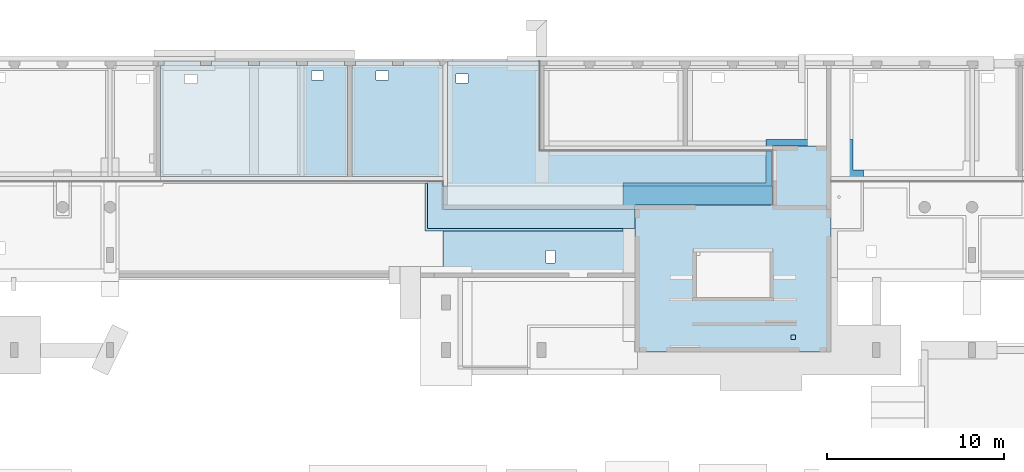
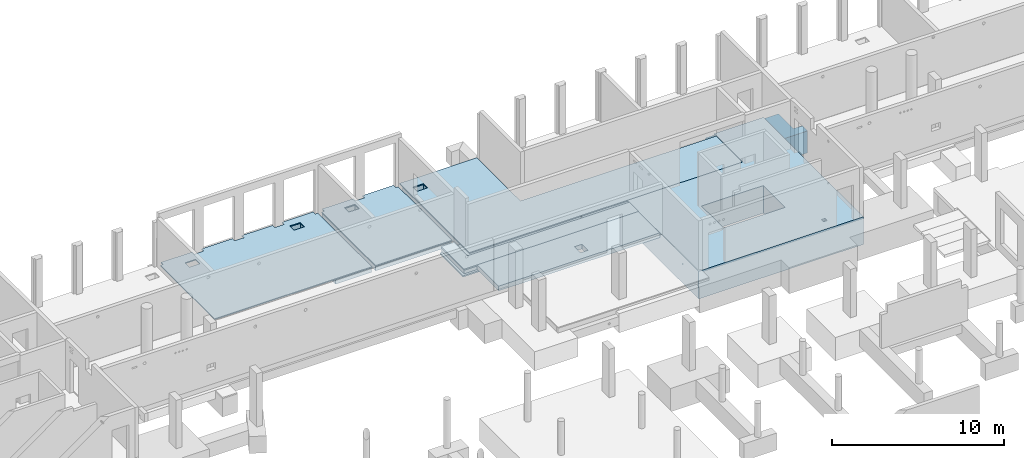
# One storey, part 31 of 60: 12 slabs, 46 openings.
"""IFC2X3 building model written with IfcOpenShell, lengths in millimetres."""

from ifc_helpers import new_model, entity, si_unit, converted_unit, derived_unit, direction, frame, frame_2d, origin, origin_2d_with_axis, place, context, subcontext, project, spatial, polyline, rectangle, circle, outline, extrude, material, layer, layer_set, layer_usage, element, save


model = new_model("IFC2X3")

# Units and contexts
model_context = context("Model", 3, precision=0.01, world=origin(), true_north=direction((6.12303176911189e-17, 1.0)))
body_context = subcontext(model_context, "Body", "Model", "MODEL_VIEW")
ifc_project = project(units=[si_unit("LENGTHUNIT", "METRE", prefix="MILLI"), si_unit("AREAUNIT", "SQUARE_METRE"), si_unit("VOLUMEUNIT", "CUBIC_METRE"), converted_unit("PLANEANGLEUNIT", "DEGREE", entity("IfcRatioMeasure", 0.0174532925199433), si_unit("PLANEANGLEUNIT", "RADIAN"), dimensions=[0, 0, 0, 0, 0, 0, 0]), si_unit("MASSUNIT", "GRAM", prefix="KILO"), derived_unit("MASSDENSITYUNIT", [(si_unit("MASSUNIT", "GRAM", prefix="KILO"), 1), (si_unit("LENGTHUNIT", "METRE"), -3)]), si_unit("TIMEUNIT", "SECOND"), si_unit("FREQUENCYUNIT", "HERTZ"), si_unit("THERMODYNAMICTEMPERATUREUNIT", "DEGREE_CELSIUS"), derived_unit("THERMALTRANSMITTANCEUNIT", [(si_unit("MASSUNIT", "GRAM", prefix="KILO"), 1), (si_unit("THERMODYNAMICTEMPERATUREUNIT", "KELVIN"), -1), (si_unit("TIMEUNIT", "SECOND"), -3)]), derived_unit("VOLUMETRICFLOWRATEUNIT", [(si_unit("LENGTHUNIT", "METRE"), 3), (si_unit("TIMEUNIT", "SECOND"), -1)]), si_unit("ELECTRICCURRENTUNIT", "AMPERE"), si_unit("ELECTRICVOLTAGEUNIT", "VOLT"), si_unit("POWERUNIT", "WATT"), si_unit("FORCEUNIT", "NEWTON", prefix="KILO"), si_unit("ILLUMINANCEUNIT", "LUX"), si_unit("LUMINOUSFLUXUNIT", "LUMEN"), si_unit("LUMINOUSINTENSITYUNIT", "CANDELA"), derived_unit("USERDEFINED", [(si_unit("MASSUNIT", "GRAM", prefix="KILO"), -1), (si_unit("LENGTHUNIT", "METRE"), -2), (si_unit("TIMEUNIT", "SECOND"), 3), (si_unit("LUMINOUSFLUXUNIT", "LUMEN"), 1)]), derived_unit("LINEARVELOCITYUNIT", [(si_unit("LENGTHUNIT", "METRE"), 1), (si_unit("TIMEUNIT", "SECOND"), -1)]), si_unit("PRESSUREUNIT", "PASCAL"), derived_unit("USERDEFINED", [(si_unit("LENGTHUNIT", "METRE"), -2), (si_unit("MASSUNIT", "GRAM", prefix="KILO"), 1), (si_unit("TIMEUNIT", "SECOND"), -2)])], contexts=[model_context])

# Site, building, storey
site_placement = place(None, origin())
site = spatial("IfcSite", under=ifc_project, at=site_placement, Name="Default", CompositionType="ELEMENT")
building_placement = place(site_placement, origin())
building = spatial("IfcBuilding", under=site, at=building_placement, Name="niet gebruiken", CompositionType="ELEMENT")
storey_placement = place(building_placement, origin())
storey = spatial("IfcBuildingStorey", under=building, at=storey_placement, Name="00 begane grond", CompositionType="ELEMENT", Elevation=0.0)

# Slab, openings
ifc_material_1 = material(Name="NLRS_f2_beton ihwg")
ifc_layer_1 = layer(ifc_material_1, 70.0)
ifc_layer_set_1 = layer_set([ifc_layer_1], Name="Floor:NLRS_23.21_FL_druklaag d=70_gen")
ifc_layer_usage_1 = layer_usage(ifc_layer_set_1, "AXIS3", "POSITIVE", 0.0)
slab_1_placement = place(storey_placement, frame((8180.0, 45156.0, -160.0)))
slab_1 = element("IfcSlab", 1, at=slab_1_placement, inside=storey, material=ifc_layer_usage_1, Name="Floor:NLRS_23.21_FL_druklaag d=70_gen:4", ObjectType="Floor:NLRS_23.21_FL_druklaag d=70_gen", PredefinedType="FLOOR", context=body_context, shape_type="SweptSolid", body=[
    extrude(outline(polyline([(-12022.5000000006, 3800.0), (-12022.5000000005, -2460.0), (-6897.49999999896, -2460.0), (-6897.49999999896, 3800.0), (-7082.50096011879, 3800.0), (-7082.50096011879, 4050.0), (-9162.50096011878, 4050.0), (-9162.50096011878, 3800.0), (-9782.50096011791, 3800.0), (-9782.50096011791, 4050.0), (-11862.5009601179, 4050.0), (-11862.5009601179, 3800.0), (-12022.5000000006, 3800.0)])), frame((55247.4999999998, 4050.0, 70.0), z_axis=(0.0, 0.0, -1.0), x_axis=(-1.0, 0.0, 0.0)), (0.0, 0.0, 1.0), 70.0),
])
placement_1 = place(storey_placement, frame((8180.0, 45156.0, -160.0)))
placement_2 = place(placement_1, origin())
element("IfcOpeningElement", 2, at=placement_2, cuts=slab_1, ObjectType="Opening", context=body_context, shape_type="SweptSolid", body=[
    extrude(rectangle(XDim=700.000000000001, YDim=499.999999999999, at=origin_2d_with_axis()), frame((1750.0, 7302.50000000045, -380.0), z_axis=(0.0, 0.0, 1.0), x_axis=(-1.0, 0.0, 0.0)), (0.0, 0.0, 1.0), 450.0),
])
placement_3 = place(placement_1, origin())
element("IfcOpeningElement", 3, at=placement_3, cuts=slab_1, ObjectType="Opening", context=body_context, shape_type="SweptSolid", body=[
    extrude(rectangle(XDim=700.000000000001, YDim=499.999999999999, at=origin_2d_with_axis()), frame((4450.0, 7302.50000000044, -380.0), z_axis=(0.0, 0.0, 1.0), x_axis=(-1.0, 0.0, 0.0)), (0.0, 0.0, 1.0), 450.0),
])
placement_4 = place(placement_1, origin())
element("IfcOpeningElement", 4, at=placement_4, cuts=slab_1, ObjectType="Opening", context=body_context, shape_type="SweptSolid", body=[
    extrude(rectangle(XDim=700.000000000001, YDim=499.999999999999, at=origin_2d_with_axis()), frame((12550.0, 7302.50000000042, -380.0), z_axis=(0.0, 0.0, 1.0), x_axis=(-1.0, 0.0, 0.0)), (0.0, 0.0, 1.0), 450.0),
])
placement_5 = place(placement_1, origin())
element("IfcOpeningElement", 5, at=placement_5, cuts=slab_1, ObjectType="Opening", context=body_context, shape_type="SweptSolid", body=[
    extrude(rectangle(XDim=700.000000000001, YDim=499.999999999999, at=origin_2d_with_axis()), frame((15250.0, 7302.50000000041, -380.0), z_axis=(0.0, 0.0, 1.0), x_axis=(-1.0, 0.0, 0.0)), (0.0, 0.0, 1.0), 450.0),
])
placement_6 = place(placement_1, origin())
element("IfcOpeningElement", 6, at=placement_6, cuts=slab_1, ObjectType="Opening", context=body_context, shape_type="SweptSolid", body=[
    extrude(rectangle(XDim=700.000000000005, YDim=499.999999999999, at=origin_2d_with_axis()), frame((42250.0, 7175.0, -380.0), z_axis=(0.0, 0.0, 1.0), x_axis=(-1.0, 0.0, 0.0)), (0.0, 0.0, 1.0), 450.0),
])
placement_7 = place(placement_1, origin())
element("IfcOpeningElement", 7, at=placement_7, cuts=slab_1, ObjectType="Opening", context=body_context, shape_type="SweptSolid", body=[
    extrude(rectangle(XDim=700.000000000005, YDim=499.999999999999, at=origin_2d_with_axis()), frame((50350.0, 7102.50000000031, -380.0), z_axis=(0.0, 0.0, 1.0), x_axis=(-1.0, 0.0, 0.0)), (0.0, 0.0, 1.0), 450.0),
])
placement_8 = place(placement_1, origin())
element("IfcOpeningElement", 8, at=placement_8, cuts=slab_1, ObjectType="Opening", context=body_context, shape_type="SweptSolid", body=[
    extrude(rectangle(XDim=699.999999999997, YDim=499.999999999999, at=origin_2d_with_axis()), frame((53050.0, 7102.50000000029, -380.0), z_axis=(0.0, 0.0, 1.0), x_axis=(-1.0, 0.0, 0.0)), (0.0, 0.0, 1.0), 450.0),
])
placement_9 = place(placement_1, origin())
element("IfcOpeningElement", 9, at=placement_9, cuts=slab_1, ObjectType="Opening", context=body_context, shape_type="SweptSolid", body=[
    extrude(rectangle(XDim=699.999999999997, YDim=499.999999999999, at=origin_2d_with_axis()), frame((60190.0, 7302.50000000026, -380.0), z_axis=(0.0, 0.0, 1.0), x_axis=(-1.0, 0.0, 0.0)), (0.0, 0.0, 1.0), 450.0),
])
placement_10 = place(placement_1, origin())
element("IfcOpeningElement", 10, at=placement_10, cuts=slab_1, ObjectType="Opening", context=body_context, shape_type="SweptSolid", body=[
    extrude(rectangle(XDim=700.000000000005, YDim=499.999999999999, at=origin_2d_with_axis()), frame((63850.0, 7302.50000000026, -380.0), z_axis=(0.0, 0.0, 1.0), x_axis=(-1.0, 0.0, 0.0)), (0.0, 0.0, 1.0), 450.0),
])
placement_11 = place(placement_1, origin())
element("IfcOpeningElement", 11, at=placement_11, cuts=slab_1, ObjectType="Opening", context=body_context, shape_type="SweptSolid", body=[
    extrude(rectangle(XDim=699.999999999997, YDim=499.999999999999, at=origin_2d_with_axis()), frame((90850.0, 7155.0, -380.0), z_axis=(0.0, 0.0, 1.0), x_axis=(-1.0, 0.0, 0.0)), (0.0, 0.0, 1.0), 450.0),
])
placement_12 = place(placement_1, origin())
element("IfcOpeningElement", 12, at=placement_12, cuts=slab_1, ObjectType="Opening", context=body_context, shape_type="SweptSolid", body=[
    extrude(rectangle(XDim=699.999999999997, YDim=499.999999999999, at=origin_2d_with_axis()), frame((97990.0, 7155.0, -380.0), z_axis=(0.0, 0.0, 1.0), x_axis=(-1.0, 0.0, 0.0)), (0.0, 0.0, 1.0), 450.0),
])
placement_13 = place(placement_1, origin())
element("IfcOpeningElement", 13, at=placement_13, cuts=slab_1, ObjectType="Opening", context=body_context, shape_type="SweptSolid", body=[
    extrude(rectangle(XDim=699.999999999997, YDim=499.999999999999, at=origin_2d_with_axis()), frame((101650.0, 7302.50000000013, -380.0), z_axis=(0.0, 0.0, 1.0), x_axis=(-1.0, 0.0, 0.0)), (0.0, 0.0, 1.0), 450.0),
])
placement_14 = place(placement_1, origin())
element("IfcOpeningElement", 14, at=placement_14, cuts=slab_1, ObjectType="Opening", context=body_context, shape_type="SweptSolid", body=[
    extrude(rectangle(XDim=699.999999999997, YDim=499.999999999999, at=origin_2d_with_axis()), frame((109750.0, 7302.50000000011, -380.0), z_axis=(0.0, 0.0, 1.0), x_axis=(-1.0, 0.0, 0.0)), (0.0, 0.0, 1.0), 450.0),
])
placement_15 = place(placement_1, origin())
element("IfcOpeningElement", 15, at=placement_15, cuts=slab_1, ObjectType="Opening", context=body_context, shape_type="SweptSolid", body=[
    extrude(rectangle(XDim=699.999999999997, YDim=499.999999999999, at=origin_2d_with_axis()), frame((112450.0, 7302.5000000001, -380.0), z_axis=(0.0, 0.0, 1.0), x_axis=(-1.0, 0.0, 0.0)), (0.0, 0.0, 1.0), 450.0),
])
placement_16 = place(placement_1, origin())
element("IfcOpeningElement", 16, at=placement_16, cuts=slab_1, ObjectType="Opening", context=body_context, shape_type="SweptSolid", body=[
    extrude(rectangle(XDim=700.000000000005, YDim=499.999999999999, at=origin_2d_with_axis()), frame((31450.0, 7175.0, -380.0), z_axis=(0.0, 0.0, 1.0), x_axis=(-1.0, 0.0, 0.0)), (0.0, 0.0, 1.0), 450.0),
])
placement_17 = place(placement_1, origin())
element("IfcOpeningElement", 17, at=placement_17, cuts=slab_1, ObjectType="Opening", context=body_context, shape_type="SweptSolid", body=[
    extrude(rectangle(XDim=700.000000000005, YDim=499.999999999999, at=origin_2d_with_axis()), frame((34150.0, 7175.0, -380.0), z_axis=(0.0, 0.0, 1.0), x_axis=(-1.0, 0.0, 0.0)), (0.0, 0.0, 1.0), 450.0),
])
placement_18 = place(placement_1, origin())
element("IfcOpeningElement", 18, at=placement_18, cuts=slab_1, ObjectType="Opening", context=body_context, shape_type="SweptSolid", body=[
    extrude(rectangle(XDim=699.999999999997, YDim=499.999999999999, at=origin_2d_with_axis()), frame((82750.0, 7175.0, -380.0), z_axis=(0.0, 0.0, 1.0), x_axis=(-1.0, 0.0, 0.0)), (0.0, 0.0, 1.0), 450.0),
])
placement_19 = place(placement_1, origin())
element("IfcOpeningElement", 19, at=placement_19, cuts=slab_1, ObjectType="Opening", context=body_context, shape_type="SweptSolid", body=[
    extrude(rectangle(XDim=699.999999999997, YDim=499.999999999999, at=origin_2d_with_axis()), frame((80050.0, 7175.0, -380.0), z_axis=(0.0, 0.0, 1.0), x_axis=(-1.0, 0.0, 0.0)), (0.0, 0.0, 1.0), 450.0),
])
placement_20 = place(placement_1, origin())
element("IfcOpeningElement", 20, at=placement_20, cuts=slab_1, ObjectType="Opening", context=body_context, shape_type="SweptSolid", body=[
    extrude(rectangle(XDim=700.000000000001, YDim=499.999999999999, at=origin_2d_with_axis()), frame((19739.8230847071, 7129.78918001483, -380.0), z_axis=(0.0, 0.0, 1.0), x_axis=(-1.0, 0.0, 0.0)), (0.0, 0.0, 1.0), 450.0),
])

slab_2_placement = place(storey_placement, frame((8180.0, 45156.0, -160.0)))
slab_2 = element("IfcSlab", 21, at=slab_2_placement, inside=storey, material=ifc_layer_usage_1, Name="Floor:NLRS_23.21_FL_druklaag d=70_gen:11", ObjectType="Floor:NLRS_23.21_FL_druklaag d=70_gen", PredefinedType="FLOOR", context=body_context, shape_type="SweptSolid", body=[
    extrude(outline(polyline([(3717.50000000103, 3800.0), (3717.50000000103, 4050.0), (1637.49903988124, 4050.0), (1637.49903988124, 3800.0), (1017.49903988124, 3800.0), (1017.49903988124, 4050.0), (-1062.50096011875, 4050.0), (-1062.50096011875, 3800.0), (-1682.50096011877, 3800.0), (-1682.50096011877, 4050.0), (-3762.50096011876, 4050.0), (-3762.50096011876, 3800.0), (-4382.50096011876, 3800.0), (-4382.50096011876, 4050.0), (-6462.50096011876, 4050.0), (-6462.50096011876, 3800.0), (-6647.4999999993, 3800.0), (-6647.49999999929, -2460.0), (3902.50000000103, -2460.0), (3902.50000000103, 3800.0), (3717.50000000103, 3800.0)])), frame((55247.4999999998, 4050.0, 70.0), z_axis=(0.0, 0.0, -1.0), x_axis=(-1.0, 0.0, 0.0)), (0.0, 0.0, 1.0), 70.0),
])
element("IfcOpeningElement", 22, at=placement_2, cuts=slab_2, ObjectType="Opening", context=body_context, shape_type="SweptSolid", body=[
    extrude(rectangle(XDim=700.000000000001, YDim=499.999999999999, at=origin_2d_with_axis()), frame((1750.0, 7302.50000000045, -380.0), z_axis=(0.0, 0.0, 1.0), x_axis=(-1.0, 0.0, 0.0)), (0.0, 0.0, 1.0), 450.0),
])
element("IfcOpeningElement", 23, at=placement_3, cuts=slab_2, ObjectType="Opening", context=body_context, shape_type="SweptSolid", body=[
    extrude(rectangle(XDim=700.000000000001, YDim=499.999999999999, at=origin_2d_with_axis()), frame((4450.0, 7302.50000000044, -380.0), z_axis=(0.0, 0.0, 1.0), x_axis=(-1.0, 0.0, 0.0)), (0.0, 0.0, 1.0), 450.0),
])
element("IfcOpeningElement", 24, at=placement_4, cuts=slab_2, ObjectType="Opening", context=body_context, shape_type="SweptSolid", body=[
    extrude(rectangle(XDim=700.000000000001, YDim=499.999999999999, at=origin_2d_with_axis()), frame((12550.0, 7302.50000000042, -380.0), z_axis=(0.0, 0.0, 1.0), x_axis=(-1.0, 0.0, 0.0)), (0.0, 0.0, 1.0), 450.0),
])
element("IfcOpeningElement", 25, at=placement_5, cuts=slab_2, ObjectType="Opening", context=body_context, shape_type="SweptSolid", body=[
    extrude(rectangle(XDim=700.000000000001, YDim=499.999999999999, at=origin_2d_with_axis()), frame((15250.0, 7302.50000000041, -380.0), z_axis=(0.0, 0.0, 1.0), x_axis=(-1.0, 0.0, 0.0)), (0.0, 0.0, 1.0), 450.0),
])
element("IfcOpeningElement", 26, at=placement_6, cuts=slab_2, ObjectType="Opening", context=body_context, shape_type="SweptSolid", body=[
    extrude(rectangle(XDim=700.000000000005, YDim=499.999999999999, at=origin_2d_with_axis()), frame((42250.0, 7175.0, -380.0), z_axis=(0.0, 0.0, 1.0), x_axis=(-1.0, 0.0, 0.0)), (0.0, 0.0, 1.0), 450.0),
])
element("IfcOpeningElement", 27, at=placement_7, cuts=slab_2, ObjectType="Opening", context=body_context, shape_type="SweptSolid", body=[
    extrude(rectangle(XDim=700.000000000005, YDim=499.999999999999, at=origin_2d_with_axis()), frame((50350.0, 7102.50000000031, -380.0), z_axis=(0.0, 0.0, 1.0), x_axis=(-1.0, 0.0, 0.0)), (0.0, 0.0, 1.0), 450.0),
])
element("IfcOpeningElement", 28, at=placement_8, cuts=slab_2, ObjectType="Opening", context=body_context, shape_type="SweptSolid", body=[
    extrude(rectangle(XDim=699.999999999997, YDim=499.999999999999, at=origin_2d_with_axis()), frame((53050.0, 7102.50000000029, -380.0), z_axis=(0.0, 0.0, 1.0), x_axis=(-1.0, 0.0, 0.0)), (0.0, 0.0, 1.0), 450.0),
])
element("IfcOpeningElement", 29, at=placement_9, cuts=slab_2, ObjectType="Opening", context=body_context, shape_type="SweptSolid", body=[
    extrude(rectangle(XDim=699.999999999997, YDim=499.999999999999, at=origin_2d_with_axis()), frame((60190.0, 7302.50000000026, -380.0), z_axis=(0.0, 0.0, 1.0), x_axis=(-1.0, 0.0, 0.0)), (0.0, 0.0, 1.0), 450.0),
])
element("IfcOpeningElement", 30, at=placement_10, cuts=slab_2, ObjectType="Opening", context=body_context, shape_type="SweptSolid", body=[
    extrude(rectangle(XDim=700.000000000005, YDim=499.999999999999, at=origin_2d_with_axis()), frame((63850.0, 7302.50000000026, -380.0), z_axis=(0.0, 0.0, 1.0), x_axis=(-1.0, 0.0, 0.0)), (0.0, 0.0, 1.0), 450.0),
])
element("IfcOpeningElement", 31, at=placement_11, cuts=slab_2, ObjectType="Opening", context=body_context, shape_type="SweptSolid", body=[
    extrude(rectangle(XDim=699.999999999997, YDim=499.999999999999, at=origin_2d_with_axis()), frame((90850.0, 7155.0, -380.0), z_axis=(0.0, 0.0, 1.0), x_axis=(-1.0, 0.0, 0.0)), (0.0, 0.0, 1.0), 450.0),
])
element("IfcOpeningElement", 32, at=placement_12, cuts=slab_2, ObjectType="Opening", context=body_context, shape_type="SweptSolid", body=[
    extrude(rectangle(XDim=699.999999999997, YDim=499.999999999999, at=origin_2d_with_axis()), frame((97990.0, 7155.0, -380.0), z_axis=(0.0, 0.0, 1.0), x_axis=(-1.0, 0.0, 0.0)), (0.0, 0.0, 1.0), 450.0),
])
element("IfcOpeningElement", 33, at=placement_13, cuts=slab_2, ObjectType="Opening", context=body_context, shape_type="SweptSolid", body=[
    extrude(rectangle(XDim=699.999999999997, YDim=499.999999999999, at=origin_2d_with_axis()), frame((101650.0, 7302.50000000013, -380.0), z_axis=(0.0, 0.0, 1.0), x_axis=(-1.0, 0.0, 0.0)), (0.0, 0.0, 1.0), 450.0),
])
element("IfcOpeningElement", 34, at=placement_14, cuts=slab_2, ObjectType="Opening", context=body_context, shape_type="SweptSolid", body=[
    extrude(rectangle(XDim=699.999999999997, YDim=499.999999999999, at=origin_2d_with_axis()), frame((109750.0, 7302.50000000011, -380.0), z_axis=(0.0, 0.0, 1.0), x_axis=(-1.0, 0.0, 0.0)), (0.0, 0.0, 1.0), 450.0),
])
element("IfcOpeningElement", 35, at=placement_15, cuts=slab_2, ObjectType="Opening", context=body_context, shape_type="SweptSolid", body=[
    extrude(rectangle(XDim=699.999999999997, YDim=499.999999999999, at=origin_2d_with_axis()), frame((112450.0, 7302.5000000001, -380.0), z_axis=(0.0, 0.0, 1.0), x_axis=(-1.0, 0.0, 0.0)), (0.0, 0.0, 1.0), 450.0),
])
element("IfcOpeningElement", 36, at=placement_16, cuts=slab_2, ObjectType="Opening", context=body_context, shape_type="SweptSolid", body=[
    extrude(rectangle(XDim=700.000000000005, YDim=499.999999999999, at=origin_2d_with_axis()), frame((31450.0, 7175.0, -380.0), z_axis=(0.0, 0.0, 1.0), x_axis=(-1.0, 0.0, 0.0)), (0.0, 0.0, 1.0), 450.0),
])
element("IfcOpeningElement", 37, at=placement_17, cuts=slab_2, ObjectType="Opening", context=body_context, shape_type="SweptSolid", body=[
    extrude(rectangle(XDim=700.000000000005, YDim=499.999999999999, at=origin_2d_with_axis()), frame((34150.0, 7175.0, -380.0), z_axis=(0.0, 0.0, 1.0), x_axis=(-1.0, 0.0, 0.0)), (0.0, 0.0, 1.0), 450.0),
])
element("IfcOpeningElement", 38, at=placement_18, cuts=slab_2, ObjectType="Opening", context=body_context, shape_type="SweptSolid", body=[
    extrude(rectangle(XDim=699.999999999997, YDim=499.999999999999, at=origin_2d_with_axis()), frame((82750.0, 7175.0, -380.0), z_axis=(0.0, 0.0, 1.0), x_axis=(-1.0, 0.0, 0.0)), (0.0, 0.0, 1.0), 450.0),
])
element("IfcOpeningElement", 39, at=placement_19, cuts=slab_2, ObjectType="Opening", context=body_context, shape_type="SweptSolid", body=[
    extrude(rectangle(XDim=699.999999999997, YDim=499.999999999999, at=origin_2d_with_axis()), frame((80050.0, 7175.0, -380.0), z_axis=(0.0, 0.0, 1.0), x_axis=(-1.0, 0.0, 0.0)), (0.0, 0.0, 1.0), 450.0),
])
element("IfcOpeningElement", 40, at=placement_20, cuts=slab_2, ObjectType="Opening", context=body_context, shape_type="SweptSolid", body=[
    extrude(rectangle(XDim=700.000000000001, YDim=499.999999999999, at=origin_2d_with_axis()), frame((19739.8230847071, 7129.78918001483, -380.0), z_axis=(0.0, 0.0, 1.0), x_axis=(-1.0, 0.0, 0.0)), (0.0, 0.0, 1.0), 450.0),
])

# Slab, opening
ifc_material_2 = material(Name="NLRS_f2_beton prefab")
ifc_layer_2 = layer(ifc_material_2, 200.0)
ifc_material_3 = material(Name="NLRS_n7_isolatie EPS")
ifc_layer_3 = layer(ifc_material_3, 132.0)
ifc_layer_set_2 = layer_set([ifc_layer_2, ifc_layer_3], Name="Floor:NLRS_23.21_FL_geisoleerde kanaalplaat d=200 rc 3.5 iso132_gen")
ifc_layer_usage_2 = layer_usage(ifc_layer_set_2, "AXIS3", "POSITIVE", 0.0)
slab_3_placement = place(storey_placement, frame((67645.0, 46766.0, -492.0)))
slab_3 = element("IfcSlab", 41, at=slab_3_placement, inside=storey, material=ifc_layer_usage_2, Name="Floor:NLRS_23.21_FL_geisoleerde kanaalplaat d=200 rc 3.5 iso132_gen", ObjectType="Floor:NLRS_23.21_FL_geisoleerde kanaalplaat d=200 rc 3.5 iso132_gen", PredefinedType="FLOOR", context=body_context, shape_type="SweptSolid", body=[
    extrude(rectangle(XDim=6220.00000000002, YDim=2410.00000000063, at=frame_2d((0.0, 0.0), x_axis=(0.0, -1.0))), frame((1205.0, 3110.0, 332.0), z_axis=(0.0, 0.0, -1.0), x_axis=(-1.0, 0.0, 0.0)), (0.0, 0.0, 1.0), 332.0),
])
opening_39_placement = place(slab_3_placement, origin())
element("IfcOpeningElement", 42, at=opening_39_placement, cuts=slab_3, ObjectType="Opening", context=body_context, shape_type="SweptSolid", body=[
    extrude(rectangle(XDim=699.999999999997, YDim=499.999999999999, at=origin_2d_with_axis()), frame((725.0, 5692.50000000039, -48.0), z_axis=(0.0, 0.0, 1.0), x_axis=(-1.0, 0.0, 0.0)), (0.0, 0.0, 1.0), 450.0),
])

ifc_layer_usage_3 = layer_usage(ifc_layer_set_2, "AXIS3", "POSITIVE", 0.0)
slab_4_placement = place(storey_placement, frame((70345.0, 46766.0, -492.0)))
slab_4 = element("IfcSlab", 43, at=slab_4_placement, inside=storey, material=ifc_layer_usage_3, Name="Floor:NLRS_23.21_FL_geisoleerde kanaalplaat d=200 rc 3.5 iso132_gen", ObjectType="Floor:NLRS_23.21_FL_geisoleerde kanaalplaat d=200 rc 3.5 iso132_gen", PredefinedType="FLOOR", context=body_context, shape_type="SweptSolid", body=[
    extrude(rectangle(XDim=6220.00000000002, YDim=5085.00000000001, at=frame_2d((0.0, 0.0), x_axis=(0.0, -1.0))), frame((2542.50000000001, 3110.0, 332.0), z_axis=(0.0, 0.0, -1.0), x_axis=(-1.0, 0.0, 0.0)), (0.0, 0.0, 1.0), 332.0),
])
opening_40_placement = place(slab_4_placement, origin())
element("IfcOpeningElement", 44, at=opening_40_placement, cuts=slab_4, ObjectType="Opening", context=body_context, shape_type="SweptSolid", body=[
    extrude(rectangle(XDim=700.000000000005, YDim=499.999999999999, at=origin_2d_with_axis()), frame((1685.0, 5692.50000000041, -48.0), z_axis=(0.0, 0.0, 1.0), x_axis=(-1.0, 0.0, 0.0)), (0.0, 0.0, 1.0), 450.0),
])

ifc_layer_usage_4 = layer_usage(ifc_layer_set_1, "AXIS3", "POSITIVE", 0.0)
slab_5_placement = place(storey_placement, frame((75700.0, 45156.0, -160.0)))
slab_5 = element("IfcSlab", 45, at=slab_5_placement, inside=storey, material=ifc_layer_usage_4, Name="Floor:NLRS_23.21_FL_druklaag d=70_gen", ObjectType="Floor:NLRS_23.21_FL_druklaag d=70_gen", PredefinedType="FLOOR", context=body_context, shape_type="SweptSolid", body=[
    extrude(outline(polyline([(9152.50305402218, -4050.0), (9152.5030540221, 4050.0), (3972.50305402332, 4050.0), (3972.50305402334, -1000.0), (-9152.50305402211, -1000.0), (-9152.50305402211, -4050.0), (9152.50305402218, -4050.0)])), frame((9152.50305402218, 4050.0, 70.0), z_axis=(0.0, 0.0, -1.0), x_axis=(-1.0, 0.0, 0.0)), (0.0, 0.0, 1.0), 70.0),
])
opening_41_placement = place(slab_5_placement, origin())
element("IfcOpeningElement", 46, at=opening_41_placement, cuts=slab_5, ObjectType="Opening", context=body_context, shape_type="SweptSolid", body=[
    extrude(rectangle(XDim=700.000000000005, YDim=499.999999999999, at=origin_2d_with_axis()), frame((820.0, 7130.0, -380.0), z_axis=(0.0, 0.0, 1.0), x_axis=(-1.0, 0.0, 0.0)), (0.0, 0.0, 1.0), 450.0),
])

ifc_layer_usage_5 = layer_usage(ifc_layer_set_2, "AXIS3", "POSITIVE", 0.0)
slab_6_placement = place(storey_placement, frame((75450.0, 41331.0, -402.0)))
slab_6 = element("IfcSlab", 47, at=slab_6_placement, inside=storey, material=ifc_layer_usage_5, Name="Floor:NLRS_23.21_FL_geisoleerde kanaalplaat d=200 rc 3.5 iso132_gen", ObjectType="Floor:NLRS_23.21_FL_geisoleerde kanaalplaat d=200 rc 3.5 iso132_gen", PredefinedType="FLOOR", context=body_context, shape_type="SweptSolid", body=[
    extrude(rectangle(XDim=10804.9999999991, YDim=2500.0, at=frame_2d((0.0, 0.0), x_axis=(-1.0, 0.0))), frame((5402.49999999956, 1250.0, 332.0), z_axis=(0.0, 0.0, -1.0), x_axis=(-1.0, 0.0, 0.0)), (0.0, 0.0, 1.0), 332.0),
])
opening_42_placement = place(slab_6_placement, origin())
element("IfcOpeningElement", 48, at=opening_42_placement, cuts=slab_6, ObjectType="Opening", context=body_context, shape_type="SweptSolid", body=[
    extrude(rectangle(XDim=699.999999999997, YDim=500.000000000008, at=origin_2d_with_axis()), frame((6060.0, 910.0, -48.0), z_axis=(0.0, 0.0, 1.0), x_axis=(0.0, -1.0, 0.0)), (0.0, 0.0, 1.0), 450.0),
])

ifc_layer_usage_6 = layer_usage(ifc_layer_set_2, "AXIS3", "POSITIVE", 0.0)
slab_7_placement = place(storey_placement, frame((75720.0, 46231.0, -492.0)))
slab_7 = element("IfcSlab", 49, at=slab_7_placement, inside=storey, material=ifc_layer_usage_6, Name="Floor:NLRS_23.21_FL_geisoleerde kanaalplaat d=200 rc 3.5 iso132_gen", ObjectType="Floor:NLRS_23.21_FL_geisoleerde kanaalplaat d=200 rc 3.5 iso132_gen", PredefinedType="FLOOR", context=body_context, shape_type="SweptSolid", body=[
    extrude(outline(polyline([(3982.49999999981, 3377.5), (3982.49999999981, -1402.49999999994), (-9142.49999999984, -1402.49999999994), (-9142.49999999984, -3377.49999999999), (9142.49999999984, -3377.49999999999), (9142.49999999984, 3377.5), (3982.49999999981, 3377.5)])), frame((9142.49999999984, 3377.49999999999, 332.0), z_axis=(0.0, 0.0, -1.0), x_axis=(-1.0, 0.0, 0.0)), (0.0, 0.0, 1.0), 332.0),
])
opening_43_placement = place(slab_7_placement, origin())
element("IfcOpeningElement", 50, at=opening_43_placement, cuts=slab_7, ObjectType="Opening", context=body_context, shape_type="SweptSolid", body=[
    extrude(rectangle(XDim=700.000000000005, YDim=499.999999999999, at=origin_2d_with_axis()), frame((800.0, 6055.0, -48.0), z_axis=(0.0, 0.0, 1.0), x_axis=(-1.0, 0.0, 0.0)), (0.0, 0.0, 1.0), 450.0),
])

# Slab, openings
ifc_layer_4 = layer(ifc_material_1, 1960.0)
ifc_layer_set_3 = layer_set([ifc_layer_4], Name="Floor:NLRS_13.22_FL_beton ihwg d=1960_gen")
ifc_layer_usage_7 = layer_usage(ifc_layer_set_3, "AXIS3", "POSITIVE", 0.0)
slab_8_placement = place(storey_placement, frame((86275.0, 36856.0, -2050.0)))
slab_8 = element("IfcSlab", 51, at=slab_8_placement, inside=storey, material=ifc_layer_usage_7, Name="Floor:NLRS_13.22_FL_beton ihwg d=1960_gen", ObjectType="Floor:NLRS_13.22_FL_beton ihwg d=1960_gen", PredefinedType="BASESLAB", context=body_context, shape_type="SweptSolid", body=[
    extrude(outline(polyline([(5525.0, -5810.0), (5525.0, 2490.0), (-2225.0, 2490.0), (-2225.0, 5810.0), (-5525.0, 5810.0), (-5525.0, -5810.0), (5525.0, -5810.0)])), frame((5525.0, 5810.0, 1960.0), z_axis=(0.0, 0.0, -1.0), x_axis=(-1.0, 0.0, 0.0)), (0.0, 0.0, 1.0), 1960.0),
])
opening_44_placement = place(slab_8_placement, origin())
element("IfcOpeningElement", 52, at=opening_44_placement, cuts=slab_8, ObjectType="Opening", context=body_context, shape_type="SweptSolid", body=[
    extrude(rectangle(XDim=249.999999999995, YDim=250.000000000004, at=origin_2d_with_axis()), frame((8924.98002153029, 850.40089373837, 1800.0), z_axis=(0.0, 0.0, 1.0), x_axis=(-1.0, 0.0, 0.0)), (0.0, 0.0, 1.0), 250.0),
])
opening_45_placement = place(slab_8_placement, origin())
element("IfcOpeningElement", 53, at=opening_45_placement, cuts=slab_8, ObjectType="Opening", context=body_context, shape_type="SweptSolid", body=[
    extrude(circle(Radius=37.5, at=origin_2d_with_axis()), frame((-675.000086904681, 1825.40089373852, 1350.0), z_axis=(1.0, -5.0672762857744e-06, 0.0), x_axis=(5.0672762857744e-06, 1.0, 0.0)), (0.0, 0.0, 1.0), 900.000000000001),
])
opening_46_placement = place(slab_8_placement, frame((5524.99984910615, 4365.0, 1960.0)))
element("IfcOpeningElement", 54, at=opening_46_placement, cuts=slab_8, Name="Floor:NLRS_13.22_FL_beton ihwg d=1960_gen:2", ObjectType="Opening", context=body_context, shape_type="SweptSolid", body=[
    extrude(rectangle(XDim=2549.99999999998, YDim=4149.99999999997, at=origin_2d_with_axis()), frame((0.0, 0.0, 0.0), z_axis=(0.0, 0.0, -1.0), x_axis=(0.0, -1.0, 0.0)), (0.0, 0.0, 1.0), 1960.0),
])

# Slabs
ifc_layer_5 = layer(ifc_material_1, 1558.0)
ifc_layer_set_4 = layer_set([ifc_layer_5], Name="Floor:NLRS_13.22_FL_beton ihwg d=1558")
ifc_layer_usage_8 = layer_usage(ifc_layer_set_4, "AXIS3", "POSITIVE", 0.0)
slab_9_placement = place(storey_placement, origin())
element("IfcSlab", 55, at=slab_9_placement, inside=storey, material=ifc_layer_usage_8, Name="Floor:NLRS_13.22_FL_beton ihwg d=1558", ObjectType="Floor:NLRS_13.22_FL_beton ihwg d=1558", PredefinedType="BASESLAB", context=body_context, shape_type="SweptSolid", body=[
    extrude(outline(polyline([(-2785.0, -7910.71428571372), (-235.0, -7910.71428571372), (-235.0, 139.285714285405), (2235.0, 139.285714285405), (2235.0, 5039.28571428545), (505.0, 5039.28571428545), (505.0, 5639.28571428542), (-120.0, 5639.28571428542), (-120.0, 3814.28571428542), (1860.0, 3814.28571428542), (1860.0, 514.285714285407), (-1460.0, 514.285714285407), (-1460.0, -7235.71428571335), (-2785.0, -7235.71428571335), (-2785.0, -7910.71428571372)])), frame((93510.7142857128, 46616.0, -492.0), z_axis=(0.0, 0.0, -1.0), x_axis=(0.0, 1.0, 0.0)), (0.0, 0.0, 1.0), 1558.0),
])
ifc_layer_6 = layer(ifc_material_1, 332.0)
ifc_layer_set_5 = layer_set([ifc_layer_6], Name="Floor:NLRS_13.22_FL_beton ihwg d=332_gen")
ifc_layer_usage_9 = layer_usage(ifc_layer_set_5, "AXIS3", "POSITIVE", 0.0)
slab_10_placement = place(storey_placement, origin())
element("IfcSlab", 56, at=slab_10_placement, inside=storey, material=ifc_layer_usage_9, Name="Floor:NLRS_13.22_FL_beton ihwg d=332_gen", ObjectType="Floor:NLRS_13.22_FL_beton ihwg d=332_gen", PredefinedType="FLOOR", context=body_context, shape_type="SweptSolid", body=[
    extrude(outline(polyline([(-1592.50000000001, -8001.24999999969), (1052.50000000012, -8001.24999999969), (1052.50000000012, -7146.24999999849), (807.499999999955, -7146.24999999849), (807.499999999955, 11448.7499999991), (-267.500000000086, 11448.7499999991), (-267.500000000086, 3698.74999999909), (-1592.50000000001, 3698.74999999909), (-1592.50000000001, -8001.24999999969)])), frame((82576.2499999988, 45423.4999999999, -160.0), z_axis=(0.0, 0.0, -1.0), x_axis=(0.0, 1.0, 0.0)), (0.0, 0.0, 1.0), 332.0),
])
ifc_layer_7 = layer(ifc_material_1, 90.0)
ifc_layer_set_6 = layer_set([ifc_layer_7], Name="Floor:NLRS_23.21_FL_beton ihwg d=90_gen")
ifc_layer_usage_10 = layer_usage(ifc_layer_set_6, "AXIS3", "POSITIVE", 0.0)
slab_11_placement = place(storey_placement, origin())
element("IfcSlab", 57, at=slab_11_placement, inside=storey, material=ifc_layer_usage_10, Name="Floor:NLRS_23.21_FL_beton ihwg d=90_gen", ObjectType="Floor:NLRS_23.21_FL_beton ihwg d=90_gen", PredefinedType="FLOOR", context=body_context, shape_type="SweptSolid", body=[
    extrude(outline(polyline([(-946.666666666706, -3775.0), (1743.33333333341, -3775.0), (1743.33333333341, -3625.0), (-796.666666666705, -3625.0), (-796.66666666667, 7400.0), (-946.666666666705, 7400.0), (-946.666666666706, -3775.0)])), frame((78200.0, 44627.6666666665, -402.0), z_axis=(0.0, 0.0, -1.0), x_axis=(0.0, 1.0, 0.0)), (0.0, 0.0, 1.0), 90.0),
])
ifc_layer_usage_11 = layer_usage(ifc_layer_set_6, "AXIS3", "POSITIVE", 0.0)
slab_12_placement = place(storey_placement, origin())
element("IfcSlab", 58, at=slab_12_placement, inside=storey, material=ifc_layer_usage_11, Name="Floor:NLRS_23.21_FL_beton ihwg d=90_gen", ObjectType="Floor:NLRS_23.21_FL_beton ihwg d=90_gen", PredefinedType="FLOOR", context=body_context, shape_type="SweptSolid", body=[
    extrude(outline(polyline([(-1240.0, -4185.0), (1405.0, -4185.0), (1405.0, -3330.0), (-165.0, -3330.0), (-165.0, 7515.0), (-1240.0, 7515.0), (-1240.0, -4185.0)])), frame((78760.0, 45071.0, -70.0), z_axis=(0.0, 0.0, -1.0), x_axis=(0.0, 1.0, 0.0)), (0.0, 0.0, 1.0), 90.0),
])

save(model, "model.ifc")
